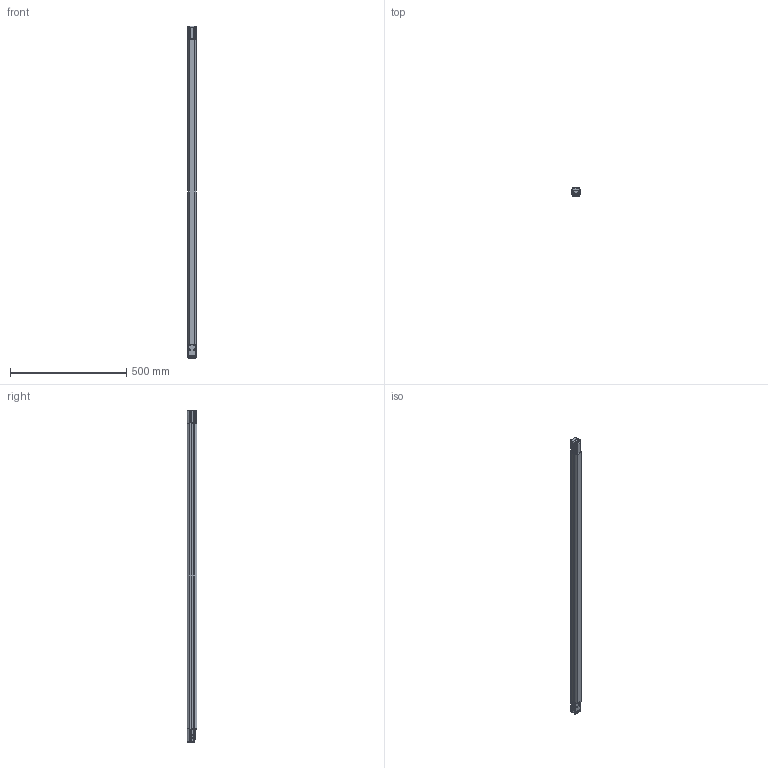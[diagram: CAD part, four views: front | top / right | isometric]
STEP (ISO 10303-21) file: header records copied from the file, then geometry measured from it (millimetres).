
FILE_DESCRIPTION(/* description */ (''),/* implementation_level */ '2;1');
FILE_NAME(/* name */ 'DSD-1137 SH4-4-1200 PASSIVE.stp',/* time_stamp */ '2023-05-18T15:54:44+02:00',/* author */ (''),/* organization */ (''),/* preprocessor_version */ 'ST-DEVELOPER v16.701',/* originating_system */ 'SIEMENS PLM Software NX 1946',/* authorisation */ '');
FILE_SCHEMA (('AUTOMOTIVE_DESIGN { 1 0 10303 214 3 1 1 1 }'));
Length unit declared in the file: millimetre
Products named in the file (1): FGut7EA8C0EDuhdh
Bounding box: 35.08 x 40 x 1426 mm (x, y, z)
Volume: 1673889.3 mm3; surface area: 329759.4 mm2
Topology: 6 solids, 11 shells, 891 faces, 2381 edges, 1502 vertices
Faces by surface type: plane 363, cylinder 315, bspline 92, cone 55, extrusion 24, sphere 22, torus 20
Full cylindrical faces by diameter (mm): 2.013 x4, 2.2 x4, 3 x4, 4.37 x4, 5 x8
Entity records: 35021 total; most frequent: CARTESIAN_POINT 13676, ORIENTED_EDGE 4482, DIRECTION 3861, EDGE_CURVE 2241, VERTEX_POINT 1468, AXIS2_PLACEMENT_3D 1343, VECTOR 1175, LINE 1151
